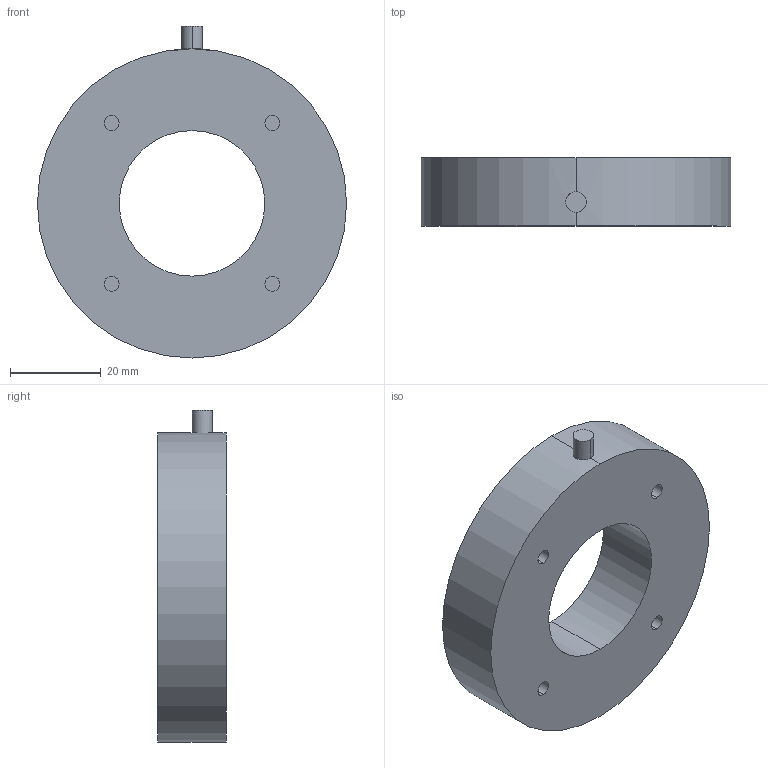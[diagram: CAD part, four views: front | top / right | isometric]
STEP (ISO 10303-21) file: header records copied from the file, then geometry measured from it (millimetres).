
FILE_DESCRIPTION (( 'STEP AP214' ), '1' );
FILE_NAME ('L1041.STEP', '2021-03-15T13:57:41', ( '' ), ( '' ), 'SwSTEP 2.0', 'SolidWorks 2021', '' );
FILE_SCHEMA (( 'AUTOMOTIVE_DESIGN' ));
Length unit declared in the file: millimetre
Products named in the file (1): L1041
Bounding box: 68 x 15 x 73 mm (x, y, z)
Volume: 34172.5 mm3; surface area: 11754.2 mm2
Topology: 1 solids, 1 shells, 27 faces, 55 edges, 36 vertices
Faces by surface type: cylinder 18, plane 9
Entity records: 863 total; most frequent: CARTESIAN_POINT 177, DIRECTION 143, ORIENTED_EDGE 110, AXIS2_PLACEMENT_3D 62, EDGE_CURVE 55, VERTEX_POINT 36, EDGE_LOOP 35, CIRCLE 34
